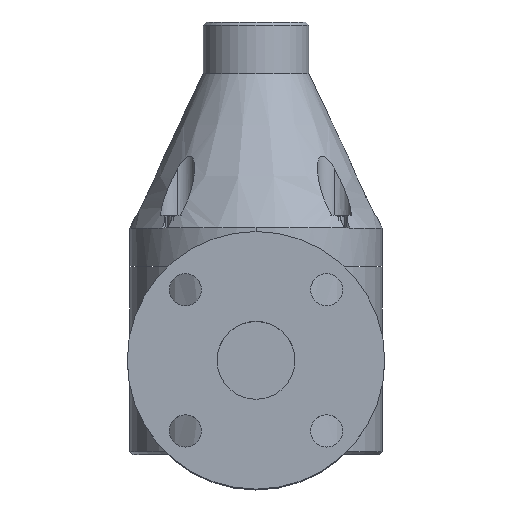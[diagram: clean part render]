
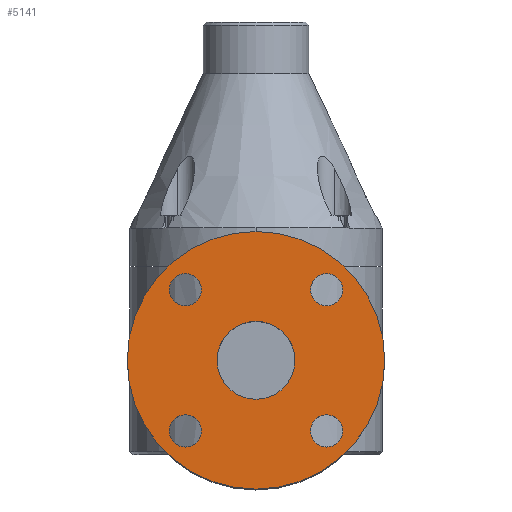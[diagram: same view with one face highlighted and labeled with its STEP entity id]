
A CAD part, top view. The second image highlights one B-rep face of the part: STEP entity #5141.
In plain terms, the highlighted planar face has unit normal (0, 0, 1).
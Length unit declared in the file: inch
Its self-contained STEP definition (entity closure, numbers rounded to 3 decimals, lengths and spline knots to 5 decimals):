
#32 = AXIS2_PLACEMENT_3D ( 'NONE', #2341, #6625, #2976 ) ;
#58 = CIRCLE ( 'NONE', #227, 0.756 ) ;
#77 = DIRECTION ( 'NONE',  ( 0., -1., 0. ) ) ;
#143 = AXIS2_PLACEMENT_3D ( 'NONE', #7007, #3345, #7652 ) ;
#153 = FACE_OUTER_BOUND ( 'NONE', #1966, .T. ) ;
#227 = AXIS2_PLACEMENT_3D ( 'NONE', #5710, #2056, #6335 ) ;
#267 = EDGE_CURVE ( 'NONE', #4513, #7355, #1829, .T. ) ;
#350 = FACE_BOUND ( 'NONE', #1815, .T. ) ;
#484 = CARTESIAN_POINT ( 'NONE',  ( -1.68252, 0.45498, 5.25 ) ) ;
#641 = AXIS2_PLACEMENT_3D ( 'NONE', #6690, #7318, #3649 ) ;
#703 = CARTESIAN_POINT ( 'NONE',  ( -2.5, 1.825, 5.25 ) ) ;
#737 = CARTESIAN_POINT ( 'NONE',  ( -1.68252, 3.19502, 5.25 ) ) ;
#889 = ORIENTED_EDGE ( 'NONE', *, *, #267, .F. ) ;
#895 = AXIS2_PLACEMENT_3D ( 'NONE', #7149, #3476, #7799 ) ;
#908 = DIRECTION ( 'NONE',  ( 0., 0., 1. ) ) ;
#936 = DIRECTION ( 'NONE',  ( 0., 0., 1. ) ) ;
#959 = CARTESIAN_POINT ( 'NONE',  ( -1.05752, 3.19502, 5.25 ) ) ;
#1088 = VERTEX_POINT ( 'NONE', #2567 ) ;
#1364 = CIRCLE ( 'NONE', #143, 0.3125 ) ;
#1481 = AXIS2_PLACEMENT_3D ( 'NONE', #5576, #1925, #6191 ) ;
#1518 = DIRECTION ( 'NONE',  ( 0., 0., 1. ) ) ;
#1524 = VERTEX_POINT ( 'NONE', #5378 ) ;
#1677 = CARTESIAN_POINT ( 'NONE',  ( -1.05752, 0.45498, 5.25 ) ) ;
#1682 = VERTEX_POINT ( 'NONE', #7649 ) ;
#1742 = CARTESIAN_POINT ( 'NONE',  ( 1.68252, 0.45498, 5.25 ) ) ;
#1815 = EDGE_LOOP ( 'NONE', ( #3519, #889 ) ) ;
#1829 = CIRCLE ( 'NONE', #7592, 0.756 ) ;
#1836 = CARTESIAN_POINT ( 'NONE',  ( 0.756, 1.825, 5.25 ) ) ;
#1854 = FACE_BOUND ( 'NONE', #2552, .T. ) ;
#1857 = VERTEX_POINT ( 'NONE', #7844 ) ;
#1925 = DIRECTION ( 'NONE',  ( 0., 0., 1. ) ) ;
#1966 = EDGE_LOOP ( 'NONE', ( #4262, #7458 ) ) ;
#1980 = CIRCLE ( 'NONE', #5730, 0.3125 ) ;
#2056 = DIRECTION ( 'NONE',  ( 0., 0., 1. ) ) ;
#2094 = CARTESIAN_POINT ( 'NONE',  ( -1.37002, 3.19502, 5.25 ) ) ;
#2121 = EDGE_CURVE ( 'NONE', #3893, #1524, #4649, .T. ) ;
#2170 = VERTEX_POINT ( 'NONE', #959 ) ;
#2332 = EDGE_LOOP ( 'NONE', ( #2723, #3051 ) ) ;
#2341 = CARTESIAN_POINT ( 'NONE',  ( 0., 1.825, 5.25 ) ) ;
#2552 = EDGE_LOOP ( 'NONE', ( #7142, #7683 ) ) ;
#2567 = CARTESIAN_POINT ( 'NONE',  ( 1.05752, 0.45498, 5.25 ) ) ;
#2582 = DIRECTION ( 'NONE',  ( 0., 0., 1. ) ) ;
#2705 = DIRECTION ( 'NONE',  ( 1., 0., 0. ) ) ;
#2723 = ORIENTED_EDGE ( 'NONE', *, *, #4990, .F. ) ;
#2760 = AXIS2_PLACEMENT_3D ( 'NONE', #6237, #2582, #6853 ) ;
#2761 = VERTEX_POINT ( 'NONE', #1677 ) ;
#2832 = EDGE_LOOP ( 'NONE', ( #4336, #4281 ) ) ;
#2976 = DIRECTION ( 'NONE',  ( 1., 0., 0. ) ) ;
#3000 = VERTEX_POINT ( 'NONE', #484 ) ;
#3051 = ORIENTED_EDGE ( 'NONE', *, *, #4620, .F. ) ;
#3211 = EDGE_CURVE ( 'NONE', #3000, #2761, #6089, .T. ) ;
#3280 = DIRECTION ( 'NONE',  ( 0., 0., 1. ) ) ;
#3345 = DIRECTION ( 'NONE',  ( 0., 0., 1. ) ) ;
#3348 = AXIS2_PLACEMENT_3D ( 'NONE', #2094, #6369, #2705 ) ;
#3361 = EDGE_CURVE ( 'NONE', #2170, #8055, #6770, .T. ) ;
#3474 = FACE_BOUND ( 'NONE', #8084, .T. ) ;
#3476 = DIRECTION ( 'NONE',  ( 0., 0., 1. ) ) ;
#3519 = ORIENTED_EDGE ( 'NONE', *, *, #5403, .F. ) ;
#3618 = AXIS2_PLACEMENT_3D ( 'NONE', #6934, #3280, #7573 ) ;
#3649 = DIRECTION ( 'NONE',  ( 1., 0., 0. ) ) ;
#3780 = EDGE_CURVE ( 'NONE', #2761, #3000, #6857, .T. ) ;
#3821 = DIRECTION ( 'NONE',  ( 0., 0., 1. ) ) ;
#3893 = VERTEX_POINT ( 'NONE', #703 ) ;
#4262 = ORIENTED_EDGE ( 'NONE', *, *, #5696, .T. ) ;
#4281 = ORIENTED_EDGE ( 'NONE', *, *, #7575, .F. ) ;
#4301 = VERTEX_POINT ( 'NONE', #1742 ) ;
#4336 = ORIENTED_EDGE ( 'NONE', *, *, #4553, .F. ) ;
#4513 = VERTEX_POINT ( 'NONE', #6136 ) ;
#4553 = EDGE_CURVE ( 'NONE', #4301, #1088, #4904, .T. ) ;
#4572 = CARTESIAN_POINT ( 'NONE',  ( 0., 1.825, 5.25 ) ) ;
#4598 = CARTESIAN_POINT ( 'NONE',  ( 1.37002, 0.45498, 5.25 ) ) ;
#4620 = EDGE_CURVE ( 'NONE', #1857, #1682, #7832, .T. ) ;
#4649 = CIRCLE ( 'NONE', #4964, 2.5 ) ;
#4904 = CIRCLE ( 'NONE', #1481, 0.3125 ) ;
#4964 = AXIS2_PLACEMENT_3D ( 'NONE', #4572, #908, #5207 ) ;
#4974 = AXIS2_PLACEMENT_3D ( 'NONE', #7508, #3821, #77 ) ;
#4990 = EDGE_CURVE ( 'NONE', #1682, #1857, #7931, .T. ) ;
#5016 = ORIENTED_EDGE ( 'NONE', *, *, #3211, .F. ) ;
#5097 = FACE_BOUND ( 'NONE', #2832, .T. ) ;
#5141 = ADVANCED_FACE ( 'NONE', ( #350, #5284, #5097, #3474, #1854, #153 ), #6662, .T. ) ;
#5186 = CARTESIAN_POINT ( 'NONE',  ( 0., 1.825, 5.25 ) ) ;
#5207 = DIRECTION ( 'NONE',  ( 1., 0., 0. ) ) ;
#5242 = DIRECTION ( 'NONE',  ( -1., 0., 0. ) ) ;
#5284 = FACE_BOUND ( 'NONE', #2332, .T. ) ;
#5335 = ORIENTED_EDGE ( 'NONE', *, *, #3780, .F. ) ;
#5378 = CARTESIAN_POINT ( 'NONE',  ( 2.5, 1.825, 5.25 ) ) ;
#5403 = EDGE_CURVE ( 'NONE', #7355, #4513, #58, .T. ) ;
#5472 = EDGE_CURVE ( 'NONE', #8055, #2170, #1364, .T. ) ;
#5576 = CARTESIAN_POINT ( 'NONE',  ( 1.37002, 0.45498, 5.25 ) ) ;
#5696 = EDGE_CURVE ( 'NONE', #1524, #3893, #6729, .T. ) ;
#5710 = CARTESIAN_POINT ( 'NONE',  ( 0., 1.825, 5.25 ) ) ;
#5730 = AXIS2_PLACEMENT_3D ( 'NONE', #4598, #936, #5242 ) ;
#5800 = DIRECTION ( 'NONE',  ( 1., 0., 0. ) ) ;
#6089 = CIRCLE ( 'NONE', #3618, 0.3125 ) ;
#6136 = CARTESIAN_POINT ( 'NONE',  ( -0.756, 1.825, 5.25 ) ) ;
#6191 = DIRECTION ( 'NONE',  ( -1., 0., 0. ) ) ;
#6237 = CARTESIAN_POINT ( 'NONE',  ( -1.37002, 0.45498, 5.25 ) ) ;
#6335 = DIRECTION ( 'NONE',  ( 1., 0., 0. ) ) ;
#6369 = DIRECTION ( 'NONE',  ( 0., 0., 1. ) ) ;
#6625 = DIRECTION ( 'NONE',  ( 0., 0., 1. ) ) ;
#6662 = PLANE ( 'NONE',  #641 ) ;
#6690 = CARTESIAN_POINT ( 'NONE',  ( 0., 1.825, 5.25 ) ) ;
#6729 = CIRCLE ( 'NONE', #32, 2.5 ) ;
#6770 = CIRCLE ( 'NONE', #3348, 0.3125 ) ;
#6853 = DIRECTION ( 'NONE',  ( 0., 1., 0. ) ) ;
#6857 = CIRCLE ( 'NONE', #2760, 0.3125 ) ;
#6934 = CARTESIAN_POINT ( 'NONE',  ( -1.37002, 0.45498, 5.25 ) ) ;
#7007 = CARTESIAN_POINT ( 'NONE',  ( -1.37002, 3.19502, 5.25 ) ) ;
#7142 = ORIENTED_EDGE ( 'NONE', *, *, #3361, .F. ) ;
#7149 = CARTESIAN_POINT ( 'NONE',  ( 1.37002, 3.19502, 5.25 ) ) ;
#7318 = DIRECTION ( 'NONE',  ( 0., 0., 1. ) ) ;
#7355 = VERTEX_POINT ( 'NONE', #1836 ) ;
#7458 = ORIENTED_EDGE ( 'NONE', *, *, #2121, .T. ) ;
#7508 = CARTESIAN_POINT ( 'NONE',  ( 1.37002, 3.19502, 5.25 ) ) ;
#7573 = DIRECTION ( 'NONE',  ( 0., 1., 0. ) ) ;
#7575 = EDGE_CURVE ( 'NONE', #1088, #4301, #1980, .T. ) ;
#7592 = AXIS2_PLACEMENT_3D ( 'NONE', #5186, #1518, #5800 ) ;
#7649 = CARTESIAN_POINT ( 'NONE',  ( 1.68252, 3.19502, 5.25 ) ) ;
#7652 = DIRECTION ( 'NONE',  ( 1., 0., 0. ) ) ;
#7683 = ORIENTED_EDGE ( 'NONE', *, *, #5472, .F. ) ;
#7799 = DIRECTION ( 'NONE',  ( 0., -1., 0. ) ) ;
#7832 = CIRCLE ( 'NONE', #4974, 0.3125 ) ;
#7844 = CARTESIAN_POINT ( 'NONE',  ( 1.05752, 3.19502, 5.25 ) ) ;
#7931 = CIRCLE ( 'NONE', #895, 0.3125 ) ;
#8055 = VERTEX_POINT ( 'NONE', #737 ) ;
#8084 = EDGE_LOOP ( 'NONE', ( #5335, #5016 ) ) ;
